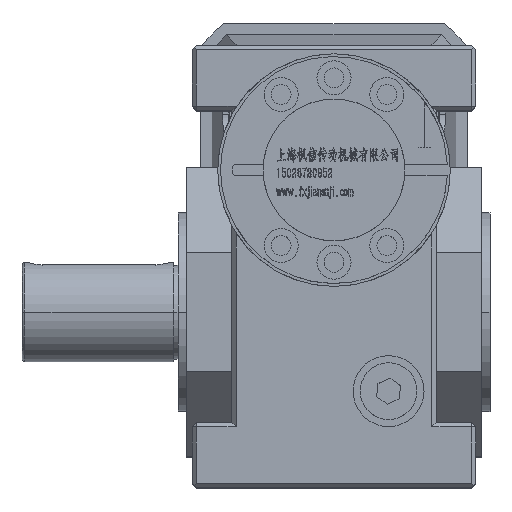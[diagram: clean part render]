
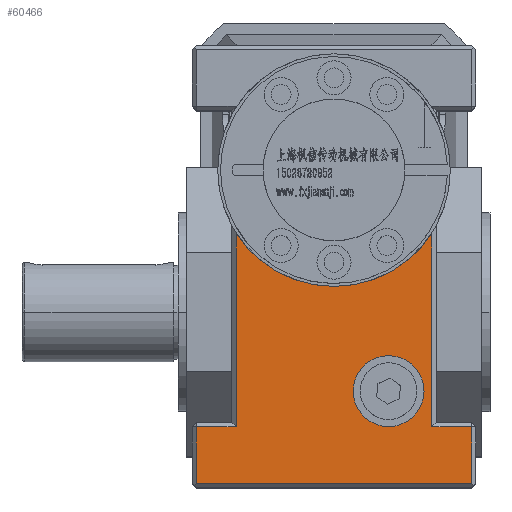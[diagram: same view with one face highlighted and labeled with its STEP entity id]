
A CAD part, top view. The second image highlights one B-rep face of the part: STEP entity #60466.
In plain terms, the highlighted planar face has unit normal (0, 0, 1).
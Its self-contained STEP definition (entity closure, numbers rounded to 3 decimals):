
#2144 = EDGE_CURVE ( 'NONE', #59407, #22591, #77258, .T. ) ;
#2823 = LINE ( 'NONE', #104139, #35511 ) ;
#3063 = CARTESIAN_POINT ( 'NONE',  ( 34.5, -40.5, 68.5 ) ) ;
#8750 = EDGE_CURVE ( 'NONE', #42805, #93761, #91315, .T. ) ;
#8846 = CARTESIAN_POINT ( 'NONE',  ( -34.5, -39., 68.5 ) ) ;
#10318 = CARTESIAN_POINT ( 'NONE',  ( 0., 50., 68.5 ) ) ;
#10406 = CARTESIAN_POINT ( 'NONE',  ( 48.5, -60.5, 68.5 ) ) ;
#11939 = EDGE_CURVE ( 'NONE', #82164, #82645, #51132, .T. ) ;
#13792 = EDGE_CURVE ( 'NONE', #82645, #48545, #102798, .T. ) ;
#14089 = EDGE_LOOP ( 'NONE', ( #28425, #107772 ) ) ;
#14684 = CARTESIAN_POINT ( 'NONE',  ( 48.5, -40.5, 68.5 ) ) ;
#15807 = EDGE_CURVE ( 'NONE', #64322, #74795, #69351, .T. ) ;
#17706 = FACE_OUTER_BOUND ( 'NONE', #84773, .T. ) ;
#18676 = DIRECTION ( 'NONE',  ( -1., 0., 0. ) ) ;
#19956 = LINE ( 'NONE', #45958, #82592 ) ;
#20353 = VECTOR ( 'NONE', #64754, 1000. ) ;
#20604 = CARTESIAN_POINT ( 'NONE',  ( 6.753, -27.925, 68.5 ) ) ;
#22591 = VERTEX_POINT ( 'NONE', #72081 ) ;
#24937 = DIRECTION ( 'NONE',  ( 0., -1., 0. ) ) ;
#26005 = DIRECTION ( 'NONE',  ( 0., 0., -1. ) ) ;
#26988 = CARTESIAN_POINT ( 'NONE',  ( 50., -40.5, 68.5 ) ) ;
#28425 = ORIENTED_EDGE ( 'NONE', *, *, #31040, .F. ) ;
#28989 = CIRCLE ( 'NONE', #108561, 12.5 ) ;
#30439 = CARTESIAN_POINT ( 'NONE',  ( -48.5, -40.5, 68.5 ) ) ;
#30563 = VECTOR ( 'NONE', #24937, 1000. ) ;
#30980 = CARTESIAN_POINT ( 'NONE',  ( -50., -40.5, 68.5 ) ) ;
#31040 = EDGE_CURVE ( 'NONE', #74795, #64322, #28989, .T. ) ;
#33760 = DIRECTION ( 'NONE',  ( -1., 0., 0. ) ) ;
#33784 = LINE ( 'NONE', #8846, #86162 ) ;
#35511 = VECTOR ( 'NONE', #88113, 1000. ) ;
#39603 = ORIENTED_EDGE ( 'NONE', *, *, #8750, .T. ) ;
#40437 = DIRECTION ( 'NONE',  ( 0., 1., 0. ) ) ;
#42805 = VERTEX_POINT ( 'NONE', #59143 ) ;
#45958 = CARTESIAN_POINT ( 'NONE',  ( 50., -60.5, 68.5 ) ) ;
#46400 = DIRECTION ( 'NONE',  ( 1., 0., 0. ) ) ;
#46574 = ORIENTED_EDGE ( 'NONE', *, *, #96289, .T. ) ;
#47769 = ORIENTED_EDGE ( 'NONE', *, *, #96676, .T. ) ;
#48545 = VERTEX_POINT ( 'NONE', #3063 ) ;
#50805 = EDGE_CURVE ( 'NONE', #98567, #82164, #19956, .T. ) ;
#51132 = LINE ( 'NONE', #76581, #62342 ) ;
#51411 = CARTESIAN_POINT ( 'NONE',  ( 19.253, -27.925, 68.5 ) ) ;
#51468 = PLANE ( 'NONE',  #87919 ) ;
#52104 = CARTESIAN_POINT ( 'NONE',  ( -34.5, 27.847, 68.5 ) ) ;
#52781 = ORIENTED_EDGE ( 'NONE', *, *, #13792, .T. ) ;
#53720 = DIRECTION ( 'NONE',  ( 1., 0., 0. ) ) ;
#56708 = CARTESIAN_POINT ( 'NONE',  ( -48.5, -60.5, 68.5 ) ) ;
#56906 = VECTOR ( 'NONE', #18676, 1000. ) ;
#59143 = CARTESIAN_POINT ( 'NONE',  ( -34.5, -40.5, 68.5 ) ) ;
#59407 = VERTEX_POINT ( 'NONE', #52104 ) ;
#60254 = DIRECTION ( 'NONE',  ( 1., 0., 0. ) ) ;
#60466 = ADVANCED_FACE ( 'NONE', ( #94613, #17706 ), #51468, .F. ) ;
#61228 = EDGE_CURVE ( 'NONE', #59407, #42805, #33784, .T. ) ;
#62342 = VECTOR ( 'NONE', #84351, 1000. ) ;
#64322 = VERTEX_POINT ( 'NONE', #20604 ) ;
#64754 = DIRECTION ( 'NONE',  ( -1., 0., 0. ) ) ;
#66405 = DIRECTION ( 'NONE',  ( 0., 0., 1. ) ) ;
#66495 = DIRECTION ( 'NONE',  ( 0., -1., 0. ) ) ;
#69351 = CIRCLE ( 'NONE', #80029, 12.5 ) ;
#71341 = DIRECTION ( 'NONE',  ( 0., 0., 1. ) ) ;
#72081 = CARTESIAN_POINT ( 'NONE',  ( 34.5, 27.847, 68.5 ) ) ;
#73811 = ORIENTED_EDGE ( 'NONE', *, *, #11939, .T. ) ;
#74795 = VERTEX_POINT ( 'NONE', #87354 ) ;
#76581 = CARTESIAN_POINT ( 'NONE',  ( 48.5, -39., 68.5 ) ) ;
#77258 = CIRCLE ( 'NONE', #87878, 41. ) ;
#79628 = CARTESIAN_POINT ( 'NONE',  ( 19.253, -27.925, 68.5 ) ) ;
#80029 = AXIS2_PLACEMENT_3D ( 'NONE', #51411, #66405, #60254 ) ;
#82164 = VERTEX_POINT ( 'NONE', #10406 ) ;
#82592 = VECTOR ( 'NONE', #53720, 1000. ) ;
#82645 = VERTEX_POINT ( 'NONE', #14684 ) ;
#84351 = DIRECTION ( 'NONE',  ( 0., 1., 0. ) ) ;
#84552 = DIRECTION ( 'NONE',  ( 0., 0., 1. ) ) ;
#84773 = EDGE_LOOP ( 'NONE', ( #47769, #93608, #73811, #52781, #46574, #92672, #87699, #39603 ) ) ;
#86162 = VECTOR ( 'NONE', #66495, 1000. ) ;
#86335 = LINE ( 'NONE', #100751, #30563 ) ;
#87354 = CARTESIAN_POINT ( 'NONE',  ( 31.753, -27.925, 68.5 ) ) ;
#87699 = ORIENTED_EDGE ( 'NONE', *, *, #61228, .T. ) ;
#87878 = AXIS2_PLACEMENT_3D ( 'NONE', #10318, #84552, #40437 ) ;
#87919 = AXIS2_PLACEMENT_3D ( 'NONE', #102901, #26005, #33760 ) ;
#88113 = DIRECTION ( 'NONE',  ( 0., 1., 0. ) ) ;
#91315 = LINE ( 'NONE', #30980, #20353 ) ;
#92672 = ORIENTED_EDGE ( 'NONE', *, *, #2144, .F. ) ;
#93608 = ORIENTED_EDGE ( 'NONE', *, *, #50805, .T. ) ;
#93761 = VERTEX_POINT ( 'NONE', #30439 ) ;
#94613 = FACE_BOUND ( 'NONE', #14089, .T. ) ;
#96289 = EDGE_CURVE ( 'NONE', #48545, #22591, #2823, .T. ) ;
#96676 = EDGE_CURVE ( 'NONE', #93761, #98567, #86335, .T. ) ;
#98567 = VERTEX_POINT ( 'NONE', #56708 ) ;
#100751 = CARTESIAN_POINT ( 'NONE',  ( -48.5, 94., 68.5 ) ) ;
#102798 = LINE ( 'NONE', #26988, #56906 ) ;
#102901 = CARTESIAN_POINT ( 'NONE',  ( 50., 94., 68.5 ) ) ;
#104139 = CARTESIAN_POINT ( 'NONE',  ( 34.5, 30.379, 68.5 ) ) ;
#107772 = ORIENTED_EDGE ( 'NONE', *, *, #15807, .F. ) ;
#108561 = AXIS2_PLACEMENT_3D ( 'NONE', #79628, #71341, #46400 ) ;
